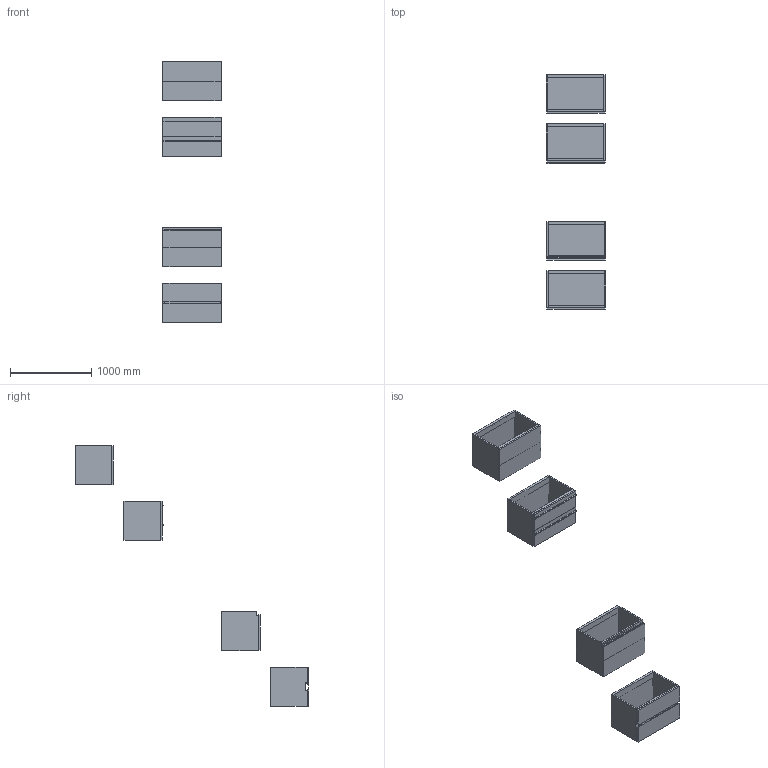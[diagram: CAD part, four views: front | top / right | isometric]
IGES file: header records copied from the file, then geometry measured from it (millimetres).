
Start section: Data from Parasolid IGES Translator 19.0.9, Copyright(c) 2006 Siemens PL M Software. All Rights Reserved.
Global section: file name: noorth-SI-H 48 D 47 W 72_8467.igs; native system: By Siemens PLM Incorporated; preprocessor: XPlus GENERIC/IGES 19.0.9; author: Noname; organization: Noname; date: 20200601.104732; units: metre
Bounding box: 724.84 x 2869.1 x 3200.01 mm (x, y, z)
Volume: 83768950.2 mm3; surface area: 12943266.3 mm2
Topology: 37 solids, 37 shells, 342 faces, 748 edges, 460 vertices
Faces by surface type: plane 254, extrusion 36, bspline 32, cylinder 20
